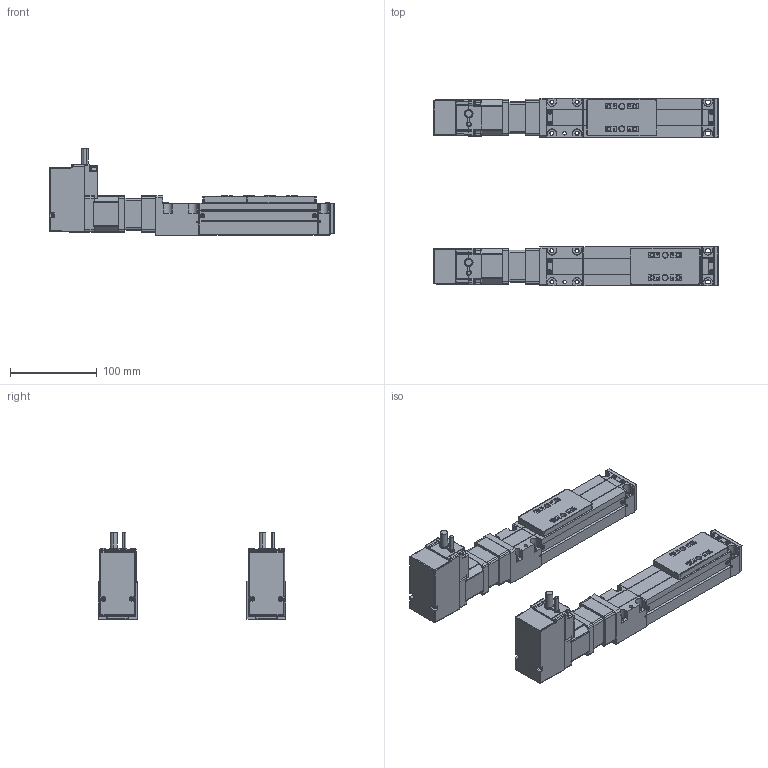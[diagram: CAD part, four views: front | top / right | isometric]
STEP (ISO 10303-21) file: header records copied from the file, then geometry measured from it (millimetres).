
FILE_DESCRIPTION(('STEP AP214'),'1');
FILE_NAME('K:\外形図\3D_DAD2\SCLT4_SBR\tmp0.step',' ',(' '),(' '),'XStep 1.0',' ',' ');
FILE_SCHEMA(('automotive_design'));
Length unit declared in the file: millimetre
Bounding box: 328.67 x 216.56 x 100.06 mm (x, y, z)
Volume: 1268878.7 mm3; surface area: 285010.9 mm2
Topology: 75 solids, 75 shells, 4185 faces, 11182 edges, 7078 vertices
Faces by surface type: plane 1957, cylinder 1672, torus 260, bspline 208, cone 48, sphere 40
Entity records: 177062 total; most frequent: CARTESIAN_POINT 35234, DIRECTION 23034, ORIENTED_EDGE 22220, EDGE_CURVE 11102, AXIS2_PLACEMENT_3D 8018, VERTEX_POINT 7078, LINE 6998, VECTOR 6998
